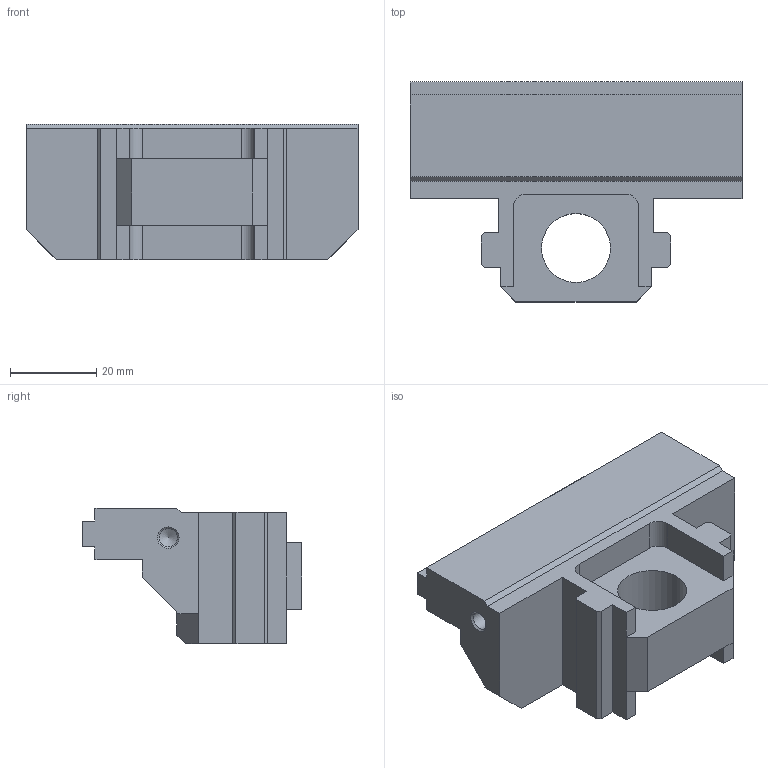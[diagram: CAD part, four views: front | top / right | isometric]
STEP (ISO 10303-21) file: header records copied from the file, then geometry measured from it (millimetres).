
FILE_DESCRIPTION (( 'STEP AP214' ), '1' );
FILE_NAME ('48085-7720.STEP', '2020-03-25T14:49:24', ( '' ), ( '' ), 'SwSTEP 2.0', 'SolidWorks 2019', '' );
FILE_SCHEMA (( 'AUTOMOTIVE_DESIGN' ));
Length unit declared in the file: millimetre
Products named in the file (1): 48085-7720
Bounding box: 77 x 51 x 31.5 mm (x, y, z)
Volume: 48467.2 mm3; surface area: 14210.9 mm2
Topology: 1 solids, 1 shells, 60 faces, 167 edges, 109 vertices
Faces by surface type: plane 49, cylinder 7, cone 4
Full cylindrical faces by diameter (mm): 4.2 x2, 16 x1
Entity records: 2527 total; most frequent: CARTESIAN_POINT 324, ORIENTED_EDGE 314, DIRECTION 295, EDGE_CURVE 157, VECTOR 141, LINE 141, VERTEX_POINT 106, AXIS2_PLACEMENT_3D 77
